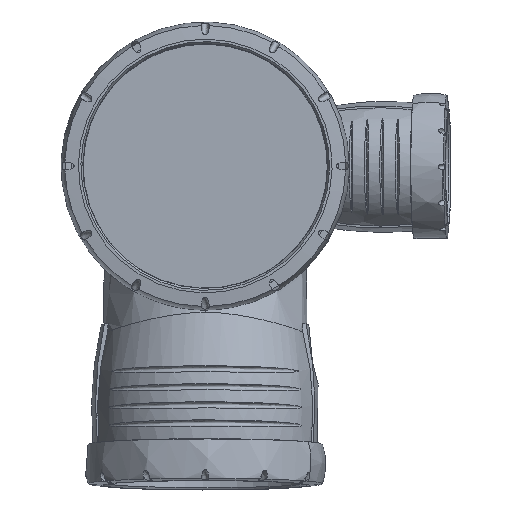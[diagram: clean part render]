
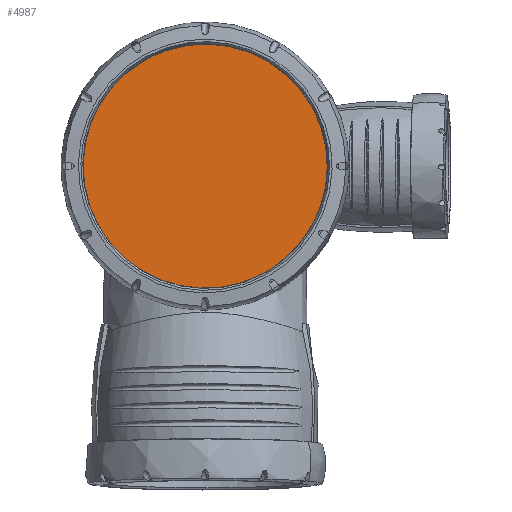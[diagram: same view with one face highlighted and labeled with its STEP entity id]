
A CAD part, top view. The second image highlights one B-rep face of the part: STEP entity #4987.
In plain terms, the highlighted planar face has unit normal (0, 0, 1).
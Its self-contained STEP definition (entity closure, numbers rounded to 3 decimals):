
#582=FACE_OUTER_BOUND('',#900,.T.);
#900=EDGE_LOOP('',(#4391,#4392));
#1275=CIRCLE('',#5339,55.5);
#1276=CIRCLE('',#5341,55.5);
#2189=VERTEX_POINT('',#16596);
#2190=VERTEX_POINT('',#16597);
#2919=EDGE_CURVE('',#2189,#2190,#1275,.T.);
#2922=EDGE_CURVE('',#2190,#2189,#1276,.T.);
#4391=ORIENTED_EDGE('',*,*,#2922,.F.);
#4392=ORIENTED_EDGE('',*,*,#2919,.F.);
#4450=PLANE('',#5344);
#4987=ADVANCED_FACE('',(#582),#4450,.T.);
#5339=AXIS2_PLACEMENT_3D('',#16598,#6110,#6111);
#5341=AXIS2_PLACEMENT_3D('',#16602,#6116,#6117);
#5344=AXIS2_PLACEMENT_3D('',#16683,#6124,#6125);
#6110=DIRECTION('center_axis',(0.,0.,
-1.));
#6111=DIRECTION('ref_axis',(0.878,0.479,0.));
#6116=DIRECTION('center_axis',(0.,0.,
-1.));
#6117=DIRECTION('ref_axis',(-0.878,-0.479,0.));
#6124=DIRECTION('center_axis',(0.,0.,
1.));
#6125=DIRECTION('ref_axis',(-0.498,0.867,0.));
#16596=CARTESIAN_POINT('',(48.706,26.608,283.2));
#16597=CARTESIAN_POINT('',(-48.706,-26.608,283.2));
#16598=CARTESIAN_POINT('Origin',(0.,0.001,
283.2));
#16602=CARTESIAN_POINT('Origin',(0.,-0.001,
283.2));
#16683=CARTESIAN_POINT('Origin',(75.793,-20.545,283.2));
